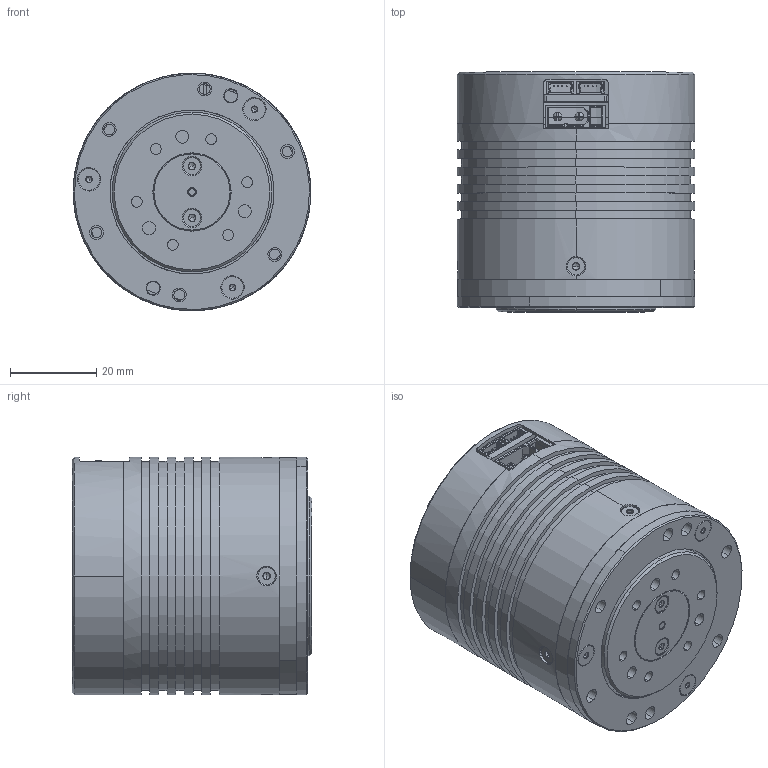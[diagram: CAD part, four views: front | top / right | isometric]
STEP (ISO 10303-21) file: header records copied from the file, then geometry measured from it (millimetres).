
FILE_DESCRIPTION (( 'STEP AP203' ), '1' );
FILE_NAME ('X4-P12.5-10.STEP', '2025-11-04T07:17:05', ( '' ), ( '' ), 'SwSTEP 2.0', 'SolidWorks 2020', '' );
FILE_SCHEMA (( 'CONFIG_CONTROL_DESIGN' ));
Length unit declared in the file: millimetre
Products named in the file (1): X4-P12.5-10
Bounding box: 55 x 55.5 x 55 mm (x, y, z)
Surface area: 26152 mm2 (no closed solid volume)
Topology: 0 solids, 47 shells, 479 faces, 1436 edges, 989 vertices
Faces by surface type: plane 239, cone 120, cylinder 112, sphere 8
Entity records: 16717 total; most frequent: CARTESIAN_POINT 3973, DIRECTION 2694, ORIENTED_EDGE 2278, EDGE_CURVE 1414, VERTEX_POINT 989, AXIS2_PLACEMENT_3D 978, VECTOR 738, LINE 738
